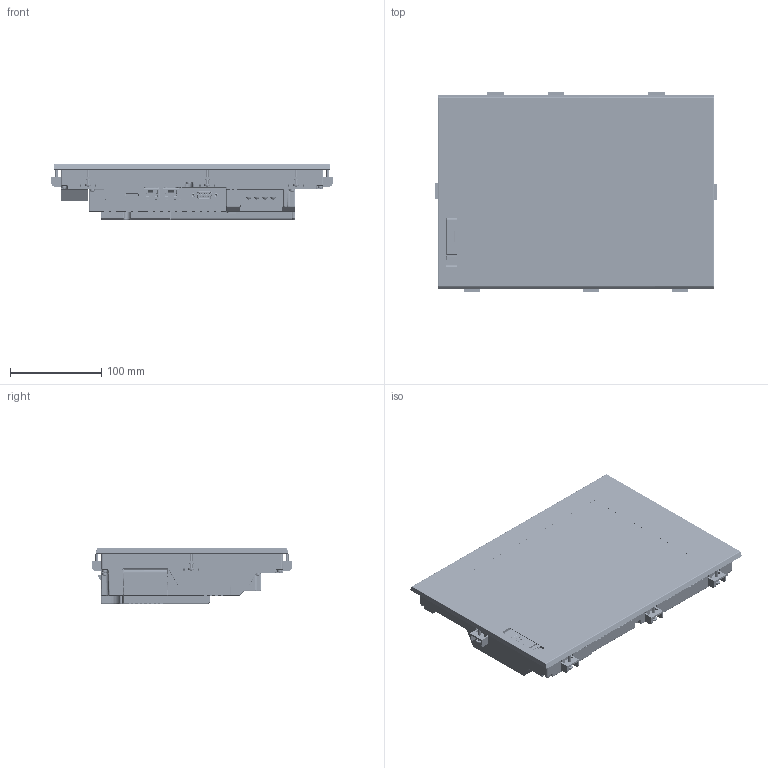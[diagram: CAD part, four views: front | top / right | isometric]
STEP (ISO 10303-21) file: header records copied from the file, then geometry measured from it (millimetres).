
FILE_DESCRIPTION((''),'2;1');
FILE_NAME('GT3710_ASM_4_ASM','2025-04-02T13:56:53',('TQ65592'),(''),'CREO PARAMETRIC BY PTC INC, 2022281','CREO PARAMETRIC BY PTC INC, 2022281','');
FILE_SCHEMA(('CONFIG_CONTROL_DESIGN'));
Products named in the file (30): GT3710_1_2; COVER_1_1; COVER_2_1; COVER_3_2; COVER_4_1; TORITUKE_1-1_1_1; TORITUKE_1-1_1_2; TORITUKE_1-1_1_ASM; TORITUKE_1-2_1_1; TORITUKE_1-2_1_2; TORITUKE_1-2_1_ASM; TORITUKE_1-3_1_1; TORITUKE_1-3_1_2; TORITUKE_1-3_1_ASM; TORITUKE_1-4_1_1; TORITUKE_1-4_1_2; TORITUKE_1-4_1_ASM; TORITUKE_1-5_1_1; TORITUKE_1-5_1_2; TORITUKE_1-5_1_ASM; TORITUKE_1-6_1_1; TORITUKE_1-6_1_2; TORITUKE_1-6_1_ASM; TORITUKE_1-7_1_1; TORITUKE_1-7_1_2; TORITUKE_1-7_1_ASM; TORITUKE_1-8_1_1; TORITUKE_1-8_1_2; TORITUKE_1-8_1_ASM; GT3710_ASM_4_ASM
Assembly tree (29 placements, depth 3):
  GT3710_ASM_4_ASM
    GT3710_1_2
    COVER_1_1
    COVER_2_1
    COVER_3_2
    COVER_4_1
    TORITUKE_1-1_1_ASM
      TORITUKE_1-1_1_1
      TORITUKE_1-1_1_2
    TORITUKE_1-2_1_ASM
      TORITUKE_1-2_1_1
      TORITUKE_1-2_1_2
    TORITUKE_1-3_1_ASM
      TORITUKE_1-3_1_1
      TORITUKE_1-3_1_2
    TORITUKE_1-4_1_ASM
      TORITUKE_1-4_1_1
      TORITUKE_1-4_1_2
    TORITUKE_1-5_1_ASM
      TORITUKE_1-5_1_1
      TORITUKE_1-5_1_2
    TORITUKE_1-6_1_ASM
      TORITUKE_1-6_1_1
      TORITUKE_1-6_1_2
    TORITUKE_1-7_1_ASM
      TORITUKE_1-7_1_1
      TORITUKE_1-7_1_2
    TORITUKE_1-8_1_ASM
      TORITUKE_1-8_1_1
      TORITUKE_1-8_1_2
Bounding box: 308.2 x 219.2 x 61 mm (x, y, z)
Volume: 2534596.1 mm3; surface area: 270315 mm2
Topology: 21 solids, 23 shells, 10817 faces, 29726 edges, 19303 vertices
Faces by surface type: plane 6461, cylinder 3153, extrusion 321, bspline 319, torus 268, cone 152, sphere 143
Entity records: 368562 total; most frequent: CARTESIAN_POINT 90710, ORIENTED_EDGE 59116, DIRECTION 56069, EDGE_CURVE 29558, VECTOR 20947, LINE 20626, VERTEX_POINT 19299, AXIS2_PLACEMENT_3D 17561
